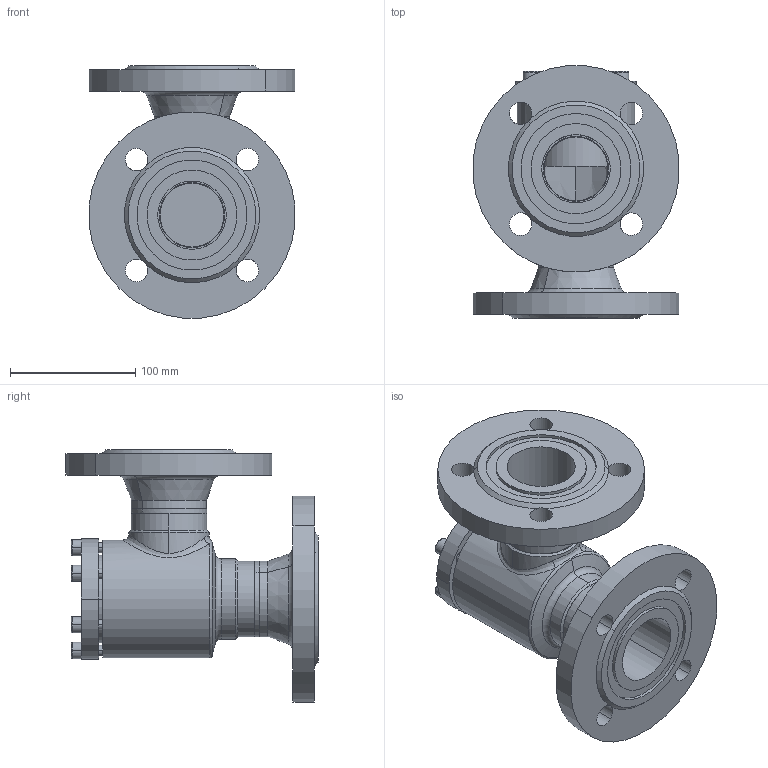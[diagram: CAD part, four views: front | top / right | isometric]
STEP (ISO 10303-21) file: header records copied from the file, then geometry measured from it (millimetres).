
FILE_DESCRIPTION (( 'STEP AP214' ), '1' );
FILE_NAME ('RV28420D15-DN050_DIN-FL-N_PS40.STEP', '2006-04-28T05:29:13', ( 'Herr Grams' ), ( 'AWP GmbH' ), 'SwSTEP 2.0', 'SolidWorks 2002296', '' );
FILE_SCHEMA (( 'AUTOMOTIVE_DESIGN' ));
Length unit declared in the file: millimetre
Products named in the file (9): RV28420D15-DN050_DIN-FL-N_PS40; RV28300E15_Deck+Schr-DN40-50_Standard; Deckel28300E15-DN40-50_Standard; Zylinderschraube-DIN912_M 8x 25; Gehäuse-kpl16420-DN050_DIN_PS40_Standard; bead16420-Geh-050-2_Standard; bead16420-Geh-050-1_Standard; Flansch-DIN2635-Nut_PS40_DIN-Flansch-DN050_PS40-Nut; Gehäuse16400-DN050_Standard
Assembly tree (14 placements, depth 3):
  RV28420D15-DN050_DIN-FL-N_PS40
    Gehäuse-kpl16420-DN050_DIN_PS40_Standard
      bead16420-Geh-050-1_Standard
      Flansch-DIN2635-Nut_PS40_DIN-Flansch-DN050_PS40-Nut  x2
      Gehäuse16400-DN050_Standard
      bead16420-Geh-050-2_Standard
    RV28300E15_Deck+Schr-DN40-50_Standard
      Zylinderschraube-DIN912_M 8x 25  x6
      Deckel28300E15-DN40-50_Standard
Bounding box: 164.37 x 201.19 x 201.19 mm (x, y, z)
Volume: 1286508.8 mm3; surface area: 246476.3 mm2
Topology: 12 solids, 12 shells, 259 faces, 591 edges, 371 vertices
Faces by surface type: cylinder 96, plane 85, cone 48, torus 20, bspline 10
Entity records: 16200 total; most frequent: CARTESIAN_POINT 12513, DIRECTION 721, ORIENTED_EDGE 638, EDGE_CURVE 319, AXIS2_PLACEMENT_3D 306, VERTEX_POINT 199, EDGE_LOOP 170, CIRCLE 160
